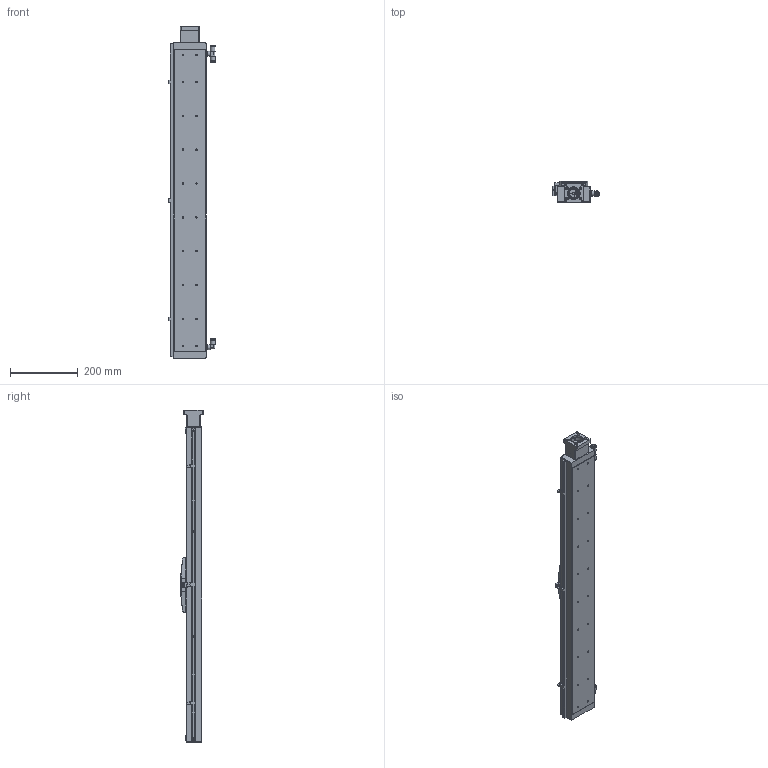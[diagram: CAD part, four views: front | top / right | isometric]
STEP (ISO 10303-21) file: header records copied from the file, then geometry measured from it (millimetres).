
FILE_DESCRIPTION((''),'2;1');
FILE_NAME('E:\libraries\UIA actuator library 2016\Clean room actuator\UIA098CR12DC\UIA098CR12 stp file 05May16\UIA098CR12DC-700-R16_ _-M23-P13-C10-S.stp','2016-05-09T15:50:50',('h029'),(''),'Autodesk Inventor 11','Autodesk Inventor 11','');
FILE_SCHEMA(('AUTOMOTIVE_DESIGN { 1 0 10303 214 1 1 1 1 }'));
Length unit declared in the file: millimetre
Products named in the file (12): UIA098CR12DC-700; body, UIA098CR12DC-700; carriage, UIA098CR12DC; Sensor Switch, UIA098CR12DC; SOH-25C; SOH-25C-2; SOH-25C-3; SOH-25C-1; Motor mount; Sensor Rail, UIA098CR12DC-700_MIR; vacuum port 1, UIA098CR12DC_MIR; vacuum port 2, UIA098CR12DC_MIR
Assembly tree (11 placements, depth 3):
  UIA098CR12DC-700
    body, UIA098CR12DC-700
    carriage, UIA098CR12DC
    Sensor Switch, UIA098CR12DC
    SOH-25C
      SOH-25C-2
      SOH-25C-3
      SOH-25C-1
    Motor mount
    Sensor Rail, UIA098CR12DC-700_MIR
    vacuum port 1, UIA098CR12DC_MIR
    vacuum port 2, UIA098CR12DC_MIR
Bounding box: 138.4 x 65.5 x 980 mm (x, y, z)
Volume: 4436115.6 mm3; surface area: 415381.4 mm2
Topology: 10 solids, 10 shells, 694 faces, 1791 edges, 1168 vertices
Faces by surface type: bspline 308, plane 295, cylinder 87, cone 4
Full cylindrical faces by diameter (mm): 3.5 x4, 5.6 x8, 8 x4, 9 x2, 10 x1, 13 x1, 15 x2, 18 x1, 25.5 x3, 37 x1, 38.1 x1
Entity records: 22461 total; most frequent: CARTESIAN_POINT 6708, ORIENTED_EDGE 3190, DIRECTION 2803, EDGE_CURVE 1595, VECTOR 1139, LINE 1139, VERTEX_POINT 1109, EDGE_LOOP 968
